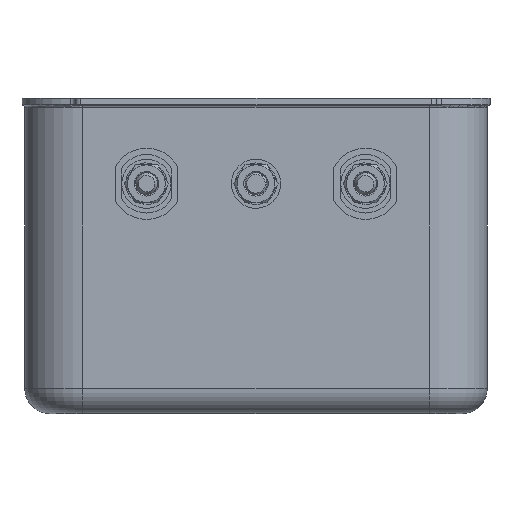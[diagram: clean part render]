
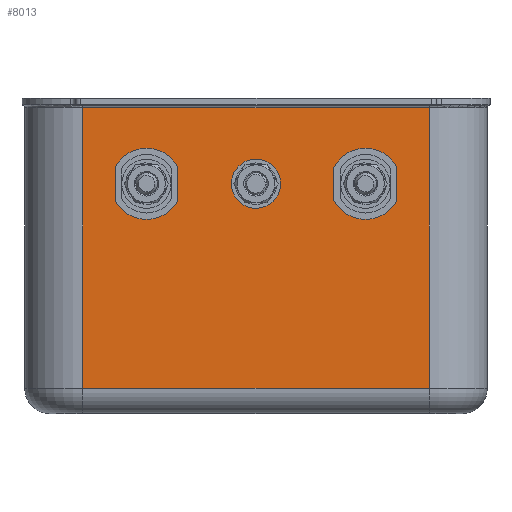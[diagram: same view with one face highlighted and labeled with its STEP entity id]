
A CAD part, left-side view. The second image highlights one B-rep face of the part: STEP entity #8013.
In plain terms, the highlighted planar face has unit normal (-1, 0, 0).
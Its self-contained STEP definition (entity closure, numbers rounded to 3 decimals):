
#2583=CARTESIAN_POINT('',(-49.25,3.231,40.81));
#2584=VERTEX_POINT('',#2583);
#2585=CARTESIAN_POINT('',(-49.25,0.003,42.002));
#2586=DIRECTION('',(1.0,0.,0.));
#2587=DIRECTION('',(0.,-0.938,0.346));
#2588=AXIS2_PLACEMENT_3D('',#2585,#2586,#2587);
#2589=CIRCLE('',#2588,3.441);
#2590=EDGE_CURVE('',#2584,#2584,#2589,.T.);
#4178=CARTESIAN_POINT('',(-49.25,-31.65,55.9));
#4179=VERTEX_POINT('',#4178);
#4189=CARTESIAN_POINT('',(-49.25,-31.65,4.6));
#4190=VERTEX_POINT('',#4189);
#4191=CARTESIAN_POINT('',(-49.25,-31.65,55.9));
#4192=DIRECTION('',(0.0,0.0,-1.0));
#4193=VECTOR('',#4192,51.3);
#4194=LINE('',#4191,#4193);
#4195=EDGE_CURVE('',#4179,#4190,#4194,.T.);
#4222=CARTESIAN_POINT('',(-49.25,31.65,55.9));
#4223=VERTEX_POINT('',#4222);
#4239=CARTESIAN_POINT('',(-49.25,31.65,4.6));
#4240=VERTEX_POINT('',#4239);
#4248=CARTESIAN_POINT('',(-49.25,31.65,4.6));
#4249=DIRECTION('',(0.0,0.0,1.0));
#4250=VECTOR('',#4249,51.3);
#4251=LINE('',#4248,#4250);
#4252=EDGE_CURVE('',#4240,#4223,#4251,.T.);
#4308=CARTESIAN_POINT('',(-49.25,-31.65,4.6));
#4309=DIRECTION('',(0.0,1.0,0.0));
#4310=VECTOR('',#4309,63.3);
#4311=LINE('',#4308,#4310);
#4312=EDGE_CURVE('',#4190,#4240,#4311,.T.);
#4657=CARTESIAN_POINT('',(-49.25,31.65,55.9));
#4658=DIRECTION('',(0.0,-1.0,0.0));
#4659=VECTOR('',#4658,63.3);
#4660=LINE('',#4657,#4659);
#4661=EDGE_CURVE('',#4223,#4179,#4660,.T.);
#4927=CARTESIAN_POINT('',(-49.25,14.25,38.965));
#4928=VERTEX_POINT('',#4927);
#4929=CARTESIAN_POINT('',(-49.25,25.75,38.965));
#4930=VERTEX_POINT('',#4929);
#4931=CARTESIAN_POINT('',(-49.25,20.,41.996));
#4932=DIRECTION('',(1.0,0.,0.));
#4933=DIRECTION('',(0.,0.885,0.466));
#4934=AXIS2_PLACEMENT_3D('',#4931,#4932,#4933);
#4935=CIRCLE('',#4934,6.5);
#4936=EDGE_CURVE('',#4928,#4930,#4935,.T.);
#4969=CARTESIAN_POINT('',(-49.25,14.25,45.028));
#4970=VERTEX_POINT('',#4969);
#4971=CARTESIAN_POINT('',(-49.25,14.25,45.028));
#4972=DIRECTION('',(0.0,0.0,-1.0));
#4973=VECTOR('',#4972,6.062);
#4974=LINE('',#4971,#4973);
#4975=EDGE_CURVE('',#4970,#4928,#4974,.T.);
#5000=CARTESIAN_POINT('',(-49.25,25.75,45.028));
#5001=VERTEX_POINT('',#5000);
#5002=CARTESIAN_POINT('',(-49.25,20.,41.996));
#5003=DIRECTION('',(1.0,0.,0.));
#5004=DIRECTION('',(0.,-0.885,-0.466));
#5005=AXIS2_PLACEMENT_3D('',#5002,#5003,#5004);
#5006=CIRCLE('',#5005,6.5);
#5007=EDGE_CURVE('',#5001,#4970,#5006,.T.);
#5033=CARTESIAN_POINT('',(-49.25,25.75,38.965));
#5034=DIRECTION('',(0.0,0.0,1.0));
#5035=VECTOR('',#5034,6.062);
#5036=LINE('',#5033,#5035);
#5037=EDGE_CURVE('',#4930,#5001,#5036,.T.);
#7957=CARTESIAN_POINT('',(-49.25,42.25,0.0));
#7958=DIRECTION('',(-1.0,0.0,0.0));
#7959=DIRECTION('',(0.0,-1.0,0.0));
#7960=AXIS2_PLACEMENT_3D('',#7957,#7958,#7959);
#7961=PLANE('',#7960);
#7962=ORIENTED_EDGE('',*,*,#4661,.F.);
#7963=ORIENTED_EDGE('',*,*,#4252,.F.);
#7964=ORIENTED_EDGE('',*,*,#4312,.F.);
#7965=ORIENTED_EDGE('',*,*,#4195,.F.);
#7966=EDGE_LOOP('',(#7962,#7963,#7964,#7965));
#7967=FACE_OUTER_BOUND('',#7966,.T.);
#7968=ORIENTED_EDGE('',*,*,#2590,.T.);
#7969=EDGE_LOOP('',(#7968));
#7970=FACE_BOUND('',#7969,.T.);
#7971=ORIENTED_EDGE('',*,*,#5037,.T.);
#7972=ORIENTED_EDGE('',*,*,#5007,.T.);
#7973=ORIENTED_EDGE('',*,*,#4975,.T.);
#7974=ORIENTED_EDGE('',*,*,#4936,.T.);
#7975=EDGE_LOOP('',(#7971,#7972,#7973,#7974));
#7976=FACE_BOUND('',#7975,.T.);
#7977=CARTESIAN_POINT('',(-49.25,-14.25,38.965));
#7978=VERTEX_POINT('',#7977);
#7979=CARTESIAN_POINT('',(-49.25,-14.25,45.028));
#7980=VERTEX_POINT('',#7979);
#7981=CARTESIAN_POINT('',(-49.25,-14.25,38.965));
#7982=DIRECTION('',(0.0,0.0,1.0));
#7983=VECTOR('',#7982,6.062);
#7984=LINE('',#7981,#7983);
#7985=EDGE_CURVE('',#7978,#7980,#7984,.T.);
#7986=ORIENTED_EDGE('',*,*,#7985,.T.);
#7987=CARTESIAN_POINT('',(-49.25,-25.75,45.028));
#7988=VERTEX_POINT('',#7987);
#7989=CARTESIAN_POINT('',(-49.25,-20.,41.996));
#7990=DIRECTION('',(1.0,0.,0.));
#7991=DIRECTION('',(0.,-0.885,-0.466));
#7992=AXIS2_PLACEMENT_3D('',#7989,#7990,#7991);
#7993=CIRCLE('',#7992,6.5);
#7994=EDGE_CURVE('',#7980,#7988,#7993,.T.);
#7995=ORIENTED_EDGE('',*,*,#7994,.T.);
#7996=CARTESIAN_POINT('',(-49.25,-25.75,38.965));
#7997=VERTEX_POINT('',#7996);
#7998=CARTESIAN_POINT('',(-49.25,-25.75,45.028));
#7999=DIRECTION('',(0.0,0.0,-1.0));
#8000=VECTOR('',#7999,6.062);
#8001=LINE('',#7998,#8000);
#8002=EDGE_CURVE('',#7988,#7997,#8001,.T.);
#8003=ORIENTED_EDGE('',*,*,#8002,.T.);
#8004=CARTESIAN_POINT('',(-49.25,-20.,41.996));
#8005=DIRECTION('',(1.0,0.,0.));
#8006=DIRECTION('',(0.,0.885,0.466));
#8007=AXIS2_PLACEMENT_3D('',#8004,#8005,#8006);
#8008=CIRCLE('',#8007,6.5);
#8009=EDGE_CURVE('',#7997,#7978,#8008,.T.);
#8010=ORIENTED_EDGE('',*,*,#8009,.T.);
#8011=EDGE_LOOP('',(#7986,#7995,#8003,#8010));
#8012=FACE_BOUND('',#8011,.T.);
#8013=ADVANCED_FACE('',(#7967,#7970,#7976,#8012),#7961,.T.);
